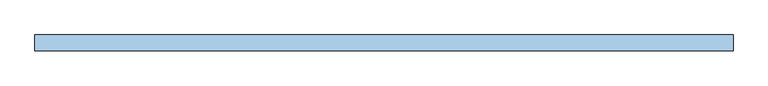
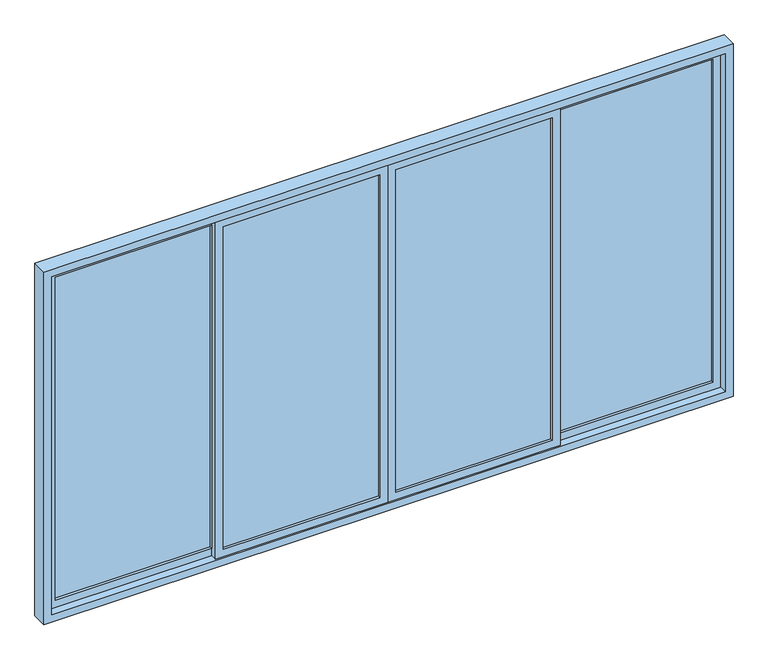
"""IFC4 building model written with IfcOpenShell, lengths in millimetres: window geometry, 四開落地窗- (1) : 1FL_南面_四開落地窗_527 x 285cm."""

from ifc_helpers import new_model, si_unit, frame, origin, place, context, project, spatial, polyline, outline, extrude, source, transform, mapped, element, save


def window_0d7f8c46(model_context):
    return source(origin(), model_context, "Body", "SweptSolid", [
        extrude(outline(polyline([(2790.0, -2575.0), (60.0, -2575.0), (60.0, -1257.5), (2790.0, -1257.5), (2790.0, -2575.0)]), holes=[polyline([(2730.0, -2515.0), (2730.0, -1317.5), (120.0, -1317.5), (120.0, -2515.0), (2730.0, -2515.0)])]), frame((0.0, 180.0, 0.0), z_axis=(0.0, 1.0, 0.0), x_axis=(0.0, 0.0, 1.0)), (0.0, 0.0, 1.0), 50.0),
        extrude(outline(polyline([(-1317.5, 200.0), (-2515.0, 200.0), (-2515.0, 210.0), (-1317.5, 210.0), (-1317.5, 200.0)])), frame((0.0, 0.0, 120.0), z_axis=(0.0, 0.0, 1.0), x_axis=(1.0, 0.0, 0.0)), (0.0, 0.0, 1.0), 2610.0),
        extrude(outline(polyline([(2790.0, -1317.5), (60.0, -1317.5), (60.0, 0.0), (2790.0, 0.0), (2790.0, -1317.5)]), holes=[polyline([(2730.0, -1257.5), (2730.0, -60.0), (120.0, -60.0), (120.0, -1257.5), (2730.0, -1257.5)])]), frame((0.0, 130.0, 0.0), z_axis=(0.0, 1.0, 0.0), x_axis=(0.0, 0.0, 1.0)), (0.0, 0.0, 1.0), 50.0),
        extrude(outline(polyline([(-60.0, 160.0), (-60.0, 150.0), (-1257.5, 150.0), (-1257.5, 160.0), (-60.0, 160.0)])), frame((0.0, 0.0, 120.0), z_axis=(0.0, 0.0, 1.0), x_axis=(1.0, 0.0, 0.0)), (0.0, 0.0, 1.0), 2610.0),
        extrude(outline(polyline([(2790.0, 2575.0), (2790.0, 1257.5), (60.0, 1257.5), (60.0, 2575.0), (2790.0, 2575.0)]), holes=[polyline([(2730.0, 2515.0), (120.0, 2515.0), (120.0, 1317.5), (2730.0, 1317.5), (2730.0, 2515.0)])]), frame((0.0, 180.0, 0.0), z_axis=(0.0, 1.0, 0.0), x_axis=(0.0, 0.0, 1.0)), (0.0, 0.0, 1.0), 50.0),
        extrude(outline(polyline([(1317.5, 200.0), (1317.5, 210.0), (2515.0, 210.0), (2515.0, 200.0), (1317.5, 200.0)])), frame((0.0, 0.0, 120.0), z_axis=(0.0, 0.0, 1.0), x_axis=(1.0, 0.0, 0.0)), (0.0, 0.0, 1.0), 2610.0),
        extrude(outline(polyline([(2790.0, 1317.5), (2790.0, 0.0), (60.0, 0.0), (60.0, 1317.5), (2790.0, 1317.5)]), holes=[polyline([(2730.0, 1257.5), (120.0, 1257.5), (120.0, 60.0), (2730.0, 60.0), (2730.0, 1257.5)])]), frame((0.0, 130.0, 0.0), z_axis=(0.0, 1.0, 0.0), x_axis=(0.0, 0.0, 1.0)), (0.0, 0.0, 1.0), 50.0),
        extrude(outline(polyline([(60.0, 160.0), (1257.5, 160.0), (1257.5, 150.0), (60.0, 150.0), (60.0, 160.0)])), frame((0.0, 0.0, 120.0), z_axis=(0.0, 0.0, 1.0), x_axis=(1.0, 0.0, 0.0)), (0.0, 0.0, 1.0), 2610.0),
        extrude(outline(polyline([(2850.0, 2635.0), (2850.0, -2635.0), (0.0, -2635.0), (0.0, 2635.0), (2850.0, 2635.0)]), holes=[polyline([(2790.0, 2575.0), (60.0, 2575.0), (60.0, -2575.0), (2790.0, -2575.0), (2790.0, 2575.0)])]), frame((0.0, 120.0, 0.0), z_axis=(0.0, 1.0, 0.0), x_axis=(0.0, 0.0, 1.0)), (0.0, 0.0, 1.0), 120.0),
    ])


if __name__ == "__main__":
    model = new_model("IFC4")
    model_context = context("Model", 3, world=origin())
    ifc_project = project(units=[si_unit("LENGTHUNIT", "METRE", prefix="MILLI")], contexts=[model_context])
    site = spatial("IfcSite", under=ifc_project)
    building = spatial("IfcBuilding", under=site)
    placement = place(None, origin())
    window_shape = window_0d7f8c46(model_context)
    element("IfcWindow", 1, ObjectType="四開落地窗- (1) : 1FL_南面_四開落地窗_527 x 285cm", at=placement, inside=building, context=model_context, shape_type="MappedRepresentation", body=[
        mapped(window_shape, transform((0.0, 0.0, 0.0), x_axis=(1.0, 0.0, 0.0), y_axis=(0.0, 1.0, 0.0), z_axis=(0.0, 0.0, 1.0))),
    ])
    save(model, "model.ifc")
